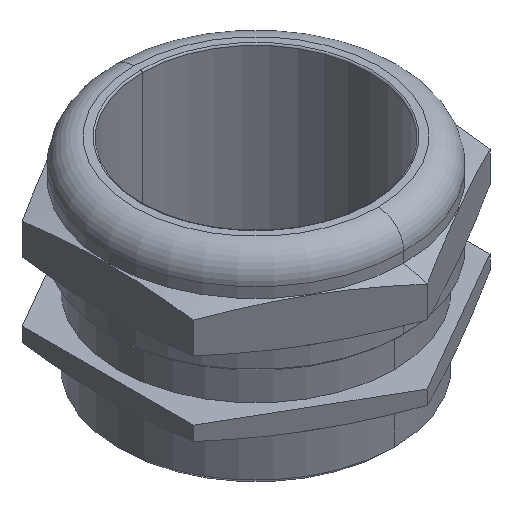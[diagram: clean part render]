
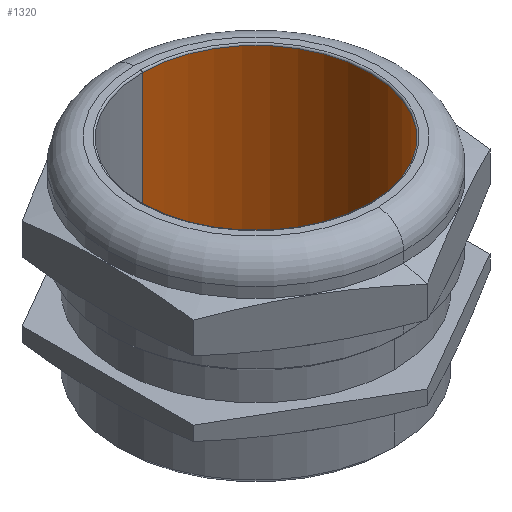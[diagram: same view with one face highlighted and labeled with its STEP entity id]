
A CAD part, isometric view. The second image highlights one B-rep face of the part: STEP entity #1320.
In plain terms, the highlighted cylindrical face has radius 22.25 mm (diameter 44.5 mm), a partial arc.
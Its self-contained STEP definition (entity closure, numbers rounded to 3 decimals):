
#82 = CYLINDRICAL_SURFACE ( 'NONE', #118, 22.25 ) ;
#83 = DIRECTION ( 'NONE',  ( 0., 1., 0. ) ) ;
#84 = DIRECTION ( 'NONE',  ( 0., 0., -1. ) ) ;
#85 = DIRECTION ( 'NONE',  ( 0., 0., -1. ) ) ;
#86 = CARTESIAN_POINT ( 'NONE',  ( 0., 0., 0. ) ) ;
#87 = AXIS2_PLACEMENT_3D ( 'NONE', #86, #85, #145 ) ;
#89 = CARTESIAN_POINT ( 'NONE',  ( 0., 0., 0. ) ) ;
#118 = AXIS2_PLACEMENT_3D ( 'NONE', #89, #84, #83 ) ;
#123 = CIRCLE ( 'NONE', #87, 22.25 ) ;
#140 = FACE_OUTER_BOUND ( 'NONE', #1272, .T. ) ;
#145 = DIRECTION ( 'NONE',  ( 0., 1., 0. ) ) ;
#823 = DIRECTION ( 'NONE',  ( 0., -1., 0. ) ) ;
#824 = DIRECTION ( 'NONE',  ( 0., 0., 1. ) ) ;
#825 = CARTESIAN_POINT ( 'NONE',  ( 0., 0., 39.7 ) ) ;
#826 = AXIS2_PLACEMENT_3D ( 'NONE', #825, #824, #823 ) ;
#827 = CIRCLE ( 'NONE', #826, 22.25 ) ;
#905 = CARTESIAN_POINT ( 'NONE',  ( 0., -22.25, 39.7 ) ) ;
#951 = CARTESIAN_POINT ( 'NONE',  ( 0., 22.25, 39.7 ) ) ;
#1074 = CARTESIAN_POINT ( 'NONE',  ( 0., 22.25, 0. ) ) ;
#1117 = DIRECTION ( 'NONE',  ( 0., 0., -1. ) ) ;
#1118 = VECTOR ( 'NONE', #1117, 1000. ) ;
#1119 = CARTESIAN_POINT ( 'NONE',  ( 0., -22.25, 0. ) ) ;
#1121 = LINE ( 'NONE', #1210, #1209 ) ;
#1137 = LINE ( 'NONE', #1119, #1118 ) ;
#1169 = CARTESIAN_POINT ( 'NONE',  ( 0., -22.25, 0. ) ) ;
#1208 = DIRECTION ( 'NONE',  ( 0., 0., -1. ) ) ;
#1209 = VECTOR ( 'NONE', #1208, 1000. ) ;
#1210 = CARTESIAN_POINT ( 'NONE',  ( 0., 22.25, 0. ) ) ;
#1272 = EDGE_LOOP ( 'NONE', ( #1330, #1395, #1327, #1331 ) ) ;
#1320 = ADVANCED_FACE ( 'NONE', ( #140 ), #82, .F. ) ;
#1327 = ORIENTED_EDGE ( 'NONE', *, *, #1568, .T. ) ;
#1330 = ORIENTED_EDGE ( 'NONE', *, *, #1541, .F. ) ;
#1331 = ORIENTED_EDGE ( 'NONE', *, *, #1454, .T. ) ;
#1395 = ORIENTED_EDGE ( 'NONE', *, *, #1673, .T. ) ;
#1454 = EDGE_CURVE ( 'NONE', #1548, #1572, #123, .T. ) ;
#1541 = EDGE_CURVE ( 'NONE', #1678, #1572, #1137, .T. ) ;
#1548 = VERTEX_POINT ( 'NONE', #1074 ) ;
#1568 = EDGE_CURVE ( 'NONE', #1679, #1548, #1121, .T. ) ;
#1572 = VERTEX_POINT ( 'NONE', #1169 ) ;
#1673 = EDGE_CURVE ( 'NONE', #1678, #1679, #827, .T. ) ;
#1678 = VERTEX_POINT ( 'NONE', #905 ) ;
#1679 = VERTEX_POINT ( 'NONE', #951 ) ;
